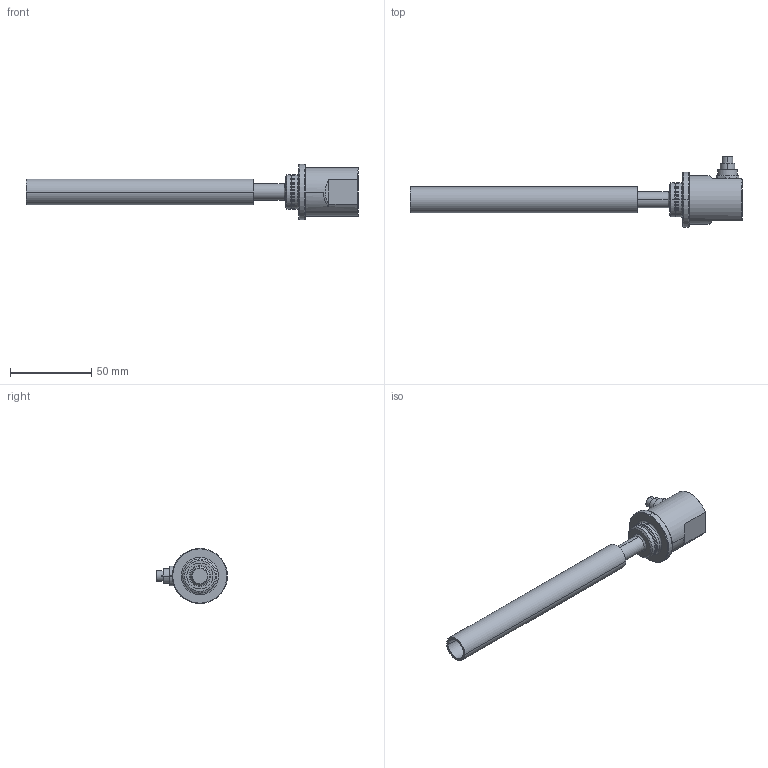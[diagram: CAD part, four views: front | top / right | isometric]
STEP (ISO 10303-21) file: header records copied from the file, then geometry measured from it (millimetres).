
FILE_DESCRIPTION((''),'2;1');
FILE_NAME('EDS-100-S-SR7_MIT_ROHR_ASM','2007-11-28T',('11000065'),(''),'PRO/ENGINEER BY PARAMETRIC TECHNOLOGY CORPORATION, 2007160','PRO/ENGINEER BY PARAMETRIC TECHNOLOGY CORPORATION, 2007160','');
FILE_SCHEMA(('AUTOMOTIVE_DESIGN { 1 2 10303 214 0 1 1 1 }'));
Length unit declared in the file: millimetre
Products named in the file (4): EDS-100-S-SR7; MESSROHR; O-RING-18X1_5; EDS-100-S-SR7_MIT_ROHR_ASM
Assembly tree (3 placements, depth 2):
  EDS-100-S-SR7_MIT_ROHR_ASM
    EDS-100-S-SR7
    MESSROHR
    O-RING-18X1_5
Bounding box: 204.5 x 43.69 x 34 mm (x, y, z)
Volume: 49948.3 mm3; surface area: 24411.3 mm2
Topology: 3 solids, 11 shells, 200 faces, 474 edges, 302 vertices
Faces by surface type: cylinder 93, plane 56, cone 20, sphere 14, torus 13, bspline 4
Entity records: 6570 total; most frequent: CARTESIAN_POINT 1350, DIRECTION 1098, ORIENTED_EDGE 920, AXIS2_PLACEMENT_3D 471, EDGE_CURVE 460, VERTEX_POINT 302, CIRCLE 268, EDGE_LOOP 238
